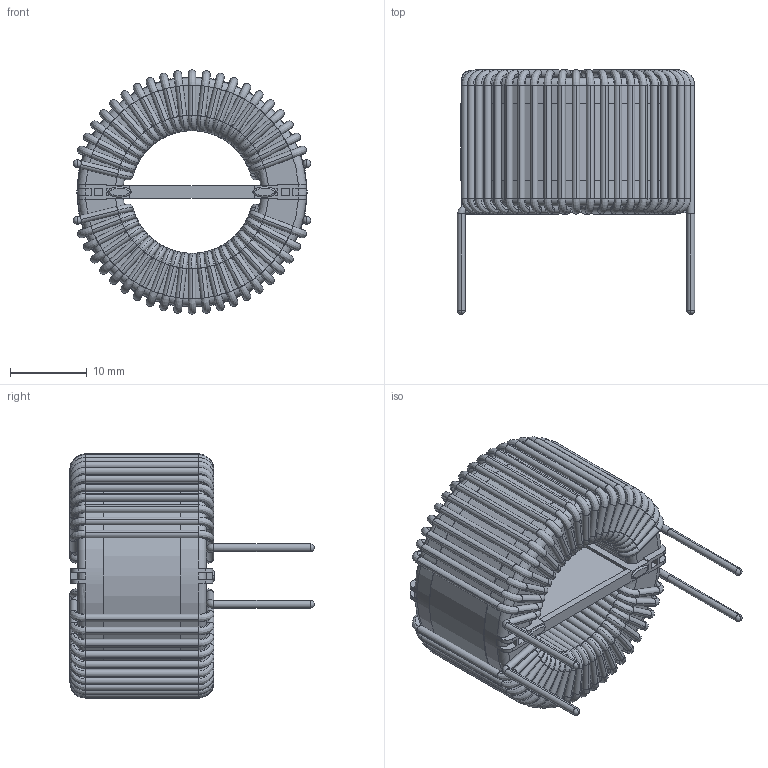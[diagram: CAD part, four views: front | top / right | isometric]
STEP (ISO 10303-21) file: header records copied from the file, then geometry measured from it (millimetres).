
FILE_DESCRIPTION (( 'STEP AP203' ), '1' );
FILE_NAME ('HN-H-303U-7A.STEP', '2020-07-09T10:24:52', ( 'Windows User' ), ( '' ), 'SwSTEP 2.0', 'SolidWorks 2015', '' );
FILE_SCHEMA (( 'CONFIG_CONTROL_DESIGN' ));
Length unit declared in the file: inch
Products named in the file (4): HN-H-303U-7A - FRAME; HN-H-303U-7A - COIL; HN-H-303U-7A - CORE; HN-H-303U-7A
Assembly tree (3 placements, depth 2):
  HN-H-303U-7A
    HN-H-303U-7A - CORE
    HN-H-303U-7A - COIL
    HN-H-303U-7A - FRAME
Bounding box: 30.94 x 31.83 x 31.83 mm (x, y, z)
Volume: 9566.6 mm3; surface area: 13133.7 mm2
Topology: 13 solids, 13 shells, 1015 faces, 2951 edges, 1960 vertices
Faces by surface type: cylinder 461, torus 214, bspline 208, plane 132
Entity records: 50139 total; most frequent: CARTESIAN_POINT 23064, ORIENTED_EDGE 5894, DIRECTION 5793, EDGE_CURVE 2947, AXIS2_PLACEMENT_3D 2505, VERTEX_POINT 1960, CIRCLE 1692, EDGE_LOOP 1021
